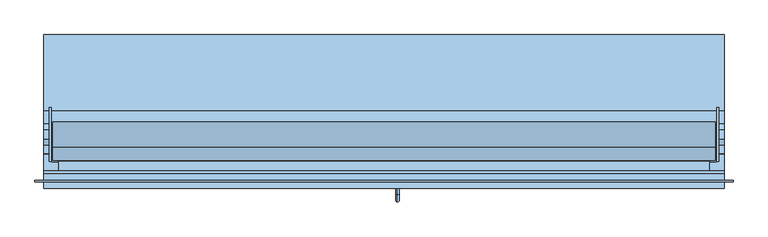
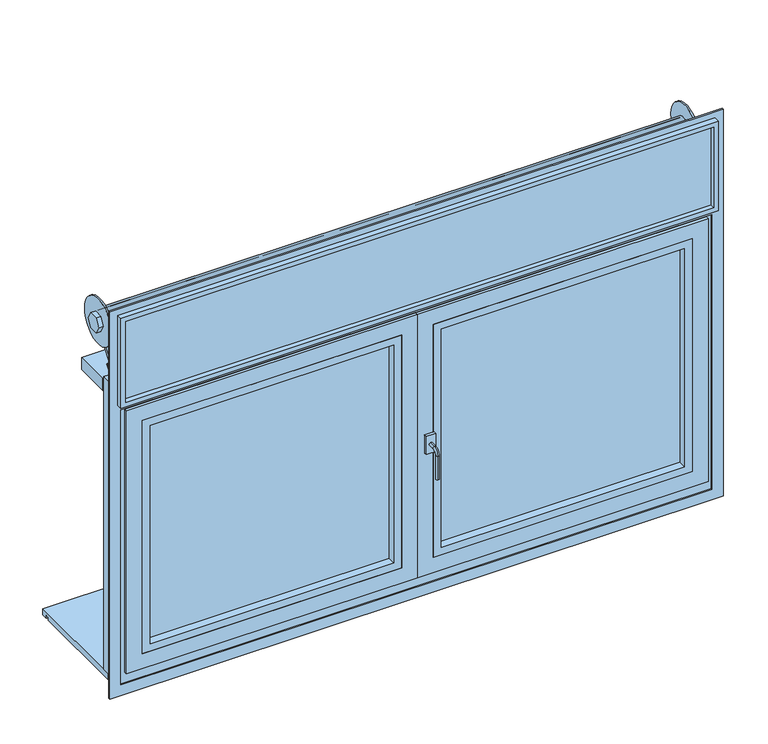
"""IFC4 building model written with IfcOpenShell, lengths in millimetres: window geometry, Ventana monoblock practicable, 2 hojas sin cajon para poner emparchado : CA-05. COCINA - DORMITORIOS NORTE."""

from ifc_helpers import new_model, si_unit, point, frame, frame_2d, origin, place, context, project, spatial, polyline, circle_curve, ellipse_curve, trimmed, segment, composite_curve, outline, extrude, faceted_brep, source, transform, mapped, element, save
from ifc_brep_helpers import plane_surface, cylinder_surface, revolved_surface, advanced_brep


def window_e1a544ef(model_context):
    return source(origin(), model_context, "Body", "SolidModel", [
        extrude(outline(polyline([(930.0, -120.0), (930.0, -135.0), (-930.0, -135.0), (-930.0, -120.0), (930.0, -120.0)])), frame((0.0, 0.0, 1865.0), z_axis=(0.0, 0.0, 1.0), x_axis=(1.0, 0.0, 0.0)), (0.0, 0.0, 1.0), 270.0),
        faceted_brep([(-945.0, -110.0, 2150.0), (-945.0, -150.0, 2150.0), (945.0, -150.0, 2150.0), (945.0, -110.0, 2150.0), (-915.0, -120.0, 2120.0), (-915.0, -110.0, 2120.0), (915.0, -110.0, 2120.0), (915.0, -120.0, 2120.0), (-930.0, -150.0, 2135.0), (-930.0, -120.0, 2135.0), (930.0, -120.0, 2135.0), (930.0, -150.0, 2135.0), (945.0, -150.0, 1850.0), (945.0, -110.0, 1850.0), (915.0, -110.0, 1880.0), (915.0, -120.0, 1880.0), (930.0, -120.0, 1865.0), (930.0, -150.0, 1865.0), (-945.0, -150.0, 1850.0), (-945.0, -110.0, 1850.0), (-915.0, -110.0, 1880.0), (-915.0, -120.0, 1880.0), (-930.0, -120.0, 1865.0), (-930.0, -150.0, 1865.0)], [[[0, 1, 2, 3]], [[4, 5, 6, 7]], [[8, 9, 10, 11]], [[3, 2, 12, 13]], [[7, 6, 14, 15]], [[11, 10, 16, 17]], [[13, 12, 18, 19]], [[15, 14, 20, 21]], [[17, 16, 22, 23]], [[19, 18, 1, 0]], [[3, 13, 19, 0], [5, 20, 14, 6]], [[21, 20, 5, 4]], [[9, 22, 16, 10], [7, 15, 21, 4]], [[23, 22, 9, 8]], [[1, 18, 12, 2], [11, 17, 23, 8]]]),
        advanced_brep(
        [(-945.0, -28.8675135, 2045.0), (-945.0, -14.4337567, 2070.0), (-945.0, 14.4337567, 2070.0), (-945.0, 28.8675135, 2045.0), (-945.0, 14.4337567, 2020.0), (-945.0, -14.4337567, 2020.0), (945.0, -28.8675135, 2045.0), (945.0, -14.4337567, 2020.0), (945.0, 14.4337567, 2020.0), (945.0, 28.8675135, 2045.0), (945.0, 14.4337567, 2070.0), (945.0, -14.4337567, 2070.0), (-930.0, -28.8675135, 2045.0), (-930.0, -14.4337567, 2070.0), (930.0, -14.4337567, 2070.0), (930.0, -28.8675135, 2045.0), (925.0, -28.8675135, 2045.0), (925.0, -14.4337567, 2070.0), (-925.0, -14.4337567, 2070.0), (-925.0, -28.8675135, 2045.0), (-930.0, 14.4337567, 2070.0), (930.0, 14.4337567, 2070.0), (925.0, 14.4337567, 2070.0), (-925.0, 14.4337567, 2070.0), (-930.0, 28.8675135, 2045.0), (930.0, 28.8675135, 2045.0), (925.0, 28.8675135, 2045.0), (-925.0, 28.8675135, 2045.0), (-930.0, 14.4337567, 2020.0), (930.0, 14.4337567, 2020.0), (925.0, 14.4337567, 2020.0), (-925.0, 14.4337567, 2020.0), (-930.0, -14.4337567, 2020.0), (930.0, -14.4337567, 2020.0), (925.0, -14.4337567, 2020.0), (-925.0, -14.4337567, 2020.0), (925.0, -75.0, 2045.0), (925.0, 75.0, 2045.0), (930.0, -75.0, 2045.0), (930.0, 75.0, 2045.0), (-930.0, -75.0, 2045.0), (-930.0, 75.0, 2045.0), (-925.0, -75.0, 2045.0), (-925.0, 75.0, 2045.0)],
        [
            (0, 1),
            (1, 2),
            (2, 3),
            (3, 4),
            (4, 5),
            (5, 0),
            (6, 7),
            (7, 8),
            (8, 9),
            (9, 10),
            (10, 11),
            (11, 6),
            (0, 12),
            (12, 13),
            (13, 1),
            (11, 14),
            (14, 15),
            (15, 6),
            (16, 17),
            (17, 18),
            (18, 19),
            (19, 16),
            (13, 20),
            (20, 2),
            (10, 21),
            (21, 14),
            (17, 22),
            (22, 23),
            (23, 18),
            (20, 24),
            (24, 3),
            (9, 25),
            (25, 21),
            (22, 26),
            (26, 27),
            (27, 23),
            (24, 28),
            (28, 4),
            (8, 29),
            (29, 25),
            (26, 30),
            (30, 31),
            (31, 27),
            (28, 32),
            (32, 5),
            (7, 33),
            (33, 29),
            (30, 34),
            (34, 35),
            (35, 31),
            (32, 12),
            (15, 33),
            (34, 16),
            (19, 35),
            (36, 37, circle_curve(frame((925.0, 0.0, 2045.0), z_axis=(-1.0, 0.0, 0.0), x_axis=(0.0, 1.0, 0.0)), 75.0)),
            (37, 36, circle_curve(frame((925.0, 0.0, 2045.0), z_axis=(-1.0, 0.0, 0.0), x_axis=(0.0, 1.0, 0.0)), 75.0)),
            (38, 39, circle_curve(frame((930.0, 0.0, 2045.0), z_axis=(1.0, 0.0, 0.0), x_axis=(0.0, 1.0, 0.0)), 75.0)),
            (39, 38, circle_curve(frame((930.0, 0.0, 2045.0), z_axis=(1.0, 0.0, 0.0), x_axis=(0.0, 1.0, 0.0)), 75.0)),
            (37, 39),
            (38, 36),
            (40, 41, circle_curve(frame((-930.0, 0.0, 2045.0), z_axis=(-1.0, 0.0, 0.0), x_axis=(0.0, 1.0, 0.0)), 75.0)),
            (41, 40, circle_curve(frame((-930.0, 0.0, 2045.0), z_axis=(-1.0, 0.0, 0.0), x_axis=(0.0, 1.0, 0.0)), 75.0)),
            (42, 43, circle_curve(frame((-925.0, 0.0, 2045.0), z_axis=(1.0, 0.0, 0.0), x_axis=(0.0, 1.0, 0.0)), 75.0)),
            (43, 42, circle_curve(frame((-925.0, 0.0, 2045.0), z_axis=(1.0, 0.0, 0.0), x_axis=(0.0, 1.0, 0.0)), 75.0)),
            (41, 43),
            (42, 40),
        ],
        [
            plane_surface(frame((-945.0, -28.8675135, 2045.0), z_axis=(-1.0, 0.0, 0.0), x_axis=(0.0, 0.4999999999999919, 0.8660254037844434))),
            plane_surface(frame((945.0, -28.8675135, 2045.0), z_axis=(1.0, 0.0, 0.0), x_axis=(0.0, -0.4999999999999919, -0.8660254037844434))),
            plane_surface(frame((-945.0, -28.8675135, 2045.0), z_axis=(0.0, -0.8660254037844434, 0.4999999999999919), x_axis=(1.0, 0.0, 0.0))),
            plane_surface(frame((-945.0, -14.4337567, 2070.0), z_axis=(0.0, 0.0, 1.0), x_axis=(1.0, 0.0, 0.0))),
            plane_surface(frame((-945.0, 14.4337567, 2070.0), z_axis=(0.0, 0.8660254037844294, 0.5000000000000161), x_axis=(1.0, 0.0, 0.0))),
            plane_surface(frame((-945.0, 28.8675135, 2045.0), z_axis=(0.0, 0.8660254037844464, -0.49999999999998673), x_axis=(1.0, 0.0, 0.0))),
            plane_surface(frame((-945.0, 14.4337567, 2020.0), z_axis=(0.0, 0.0, -1.0), x_axis=(1.0, 0.0, 0.0))),
            plane_surface(frame((-945.0, -14.4337567, 2020.0), z_axis=(0.0, -0.8660254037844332, -0.5000000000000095), x_axis=(1.0, 0.0, 0.0))),
            plane_surface(frame((925.0, 75.0, 2045.0), z_axis=(-1.0, 0.0, 0.0), x_axis=(0.0, 0.0, -1.0))),
            plane_surface(frame((930.0, 75.0, 2045.0), z_axis=(1.0, 0.0, 0.0), x_axis=(0.0, 0.0, 1.0))),
            cylinder_surface(frame((925.0, 0.0, 2045.0), z_axis=(1.0, 0.0, 0.0), x_axis=(0.0, 1.0, 0.0)), 75.0),
            plane_surface(frame((-930.0, 75.0, 2045.0), z_axis=(-1.0, 0.0, 0.0), x_axis=(0.0, 0.0, -1.0))),
            plane_surface(frame((-925.0, 75.0, 2045.0), z_axis=(1.0, 0.0, 0.0), x_axis=(0.0, 0.0, 1.0))),
            cylinder_surface(frame((-930.0, 0.0, 2045.0), z_axis=(1.0, 0.0, 0.0), x_axis=(0.0, 1.0, 0.0)), 75.0),
        ],
        [
            (0, [[1, 2, 3, 4, 5, 6]]),
            (1, [[7, 8, 9, 10, 11, 12]]),
            (2, [[-1, 13, 14, 15]]),
            (2, [[-12, 16, 17, 18]]),
            (2, [[19, 20, 21, 22]]),
            (3, [[-2, -15, 23, 24]]),
            (3, [[-11, 25, 26, -16]]),
            (3, [[27, 28, 29, -20]]),
            (4, [[-3, -24, 30, 31]]),
            (4, [[-10, 32, 33, -25]]),
            (4, [[34, 35, 36, -28]]),
            (5, [[-4, -31, 37, 38]]),
            (5, [[-9, 39, 40, -32]]),
            (5, [[41, 42, 43, -35]]),
            (6, [[-5, -38, 44, 45]]),
            (6, [[-8, 46, 47, -39]]),
            (6, [[48, 49, 50, -42]]),
            (7, [[-6, -45, 51, -13]]),
            (7, [[-7, -18, 52, -46]]),
            (7, [[53, -22, 54, -49]]),
            (8, [[55, 56], [-19, -53, -48, -41, -34, -27]]),
            (9, [[57, 58], [-17, -26, -33, -40, -47, -52]]),
            (10, [[-56, 59, -57, 60]]),
            (10, [[-55, -60, -58, -59]]),
            (11, [[61, 62], [-14, -51, -44, -37, -30, -23]]),
            (12, [[63, 64], [-21, -29, -36, -43, -50, -54]]),
            (13, [[-62, 65, -63, 66]]),
            (13, [[-61, -66, -64, -65]]),
        ],
    ),
        extrude(outline(composite_curve([segment(trimmed(circle_curve(frame_2d((0.0, 2045.0)), 29.0), [point((22.8709706, 2027.1697251))], [point((0.0, 2016.0))], True, "CARTESIAN"), True, "CONTINUOUS"), segment(polyline([(0.0, 2016.0), (0.0, 2010.0)]), True, "CONTINUOUS"), segment(trimmed(circle_curve(frame_2d((0.0, 2045.0)), 35.0), [point((0.0, 2010.0))], [point((27.6028956, 2023.4807027))], False, "CARTESIAN"), True, "CONTINUOUS"), segment(polyline([(27.6028956, 2023.4807027), (-66.0, 1903.4158643), (-66.0, 1500.0), (-72.0, 1500.0), (-72.0, 1905.4783214), (22.8709706, 2027.1697251)]), True, "CONTINUOUS")], self_intersect=False)), frame((-920.0, 0.0, 0.0), z_axis=(1.0, 0.0, 0.0), x_axis=(0.0, 1.0, 0.0)), (0.0, 0.0, 1.0), 1840.0),
        extrude(outline(polyline([(-945.0, -52.0), (-945.0, 65.0), (945.0, 65.0), (945.0, -52.0), (-945.0, -52.0)])), frame((0.0, 0.0, 1850.0), z_axis=(0.0, 0.0, 1.0), x_axis=(1.0, 0.0, 0.0)), (0.0, 0.0, 1.0), 40.0),
        extrude(outline(polyline([(905.0, -75.0), (905.0, -100.0), (-905.0, -100.0), (-905.0, -75.0), (905.0, -75.0)])), frame((0.0, 0.0, 1840.0), z_axis=(0.0, 0.0, 1.0), x_axis=(1.0, 0.0, 0.0)), (0.0, 0.0, 1.0), 10.0),
        faceted_brep([(-925.0, -77.0, 920.0), (-905.0, -77.0, 920.0), (-905.0, -100.0, 920.0), (-945.0, -100.0, 920.0), (-945.0, -56.0, 920.0), (-905.0, -56.0, 920.0), (-905.0, -61.0, 920.0), (-925.0, -61.0, 920.0), (-925.0, -77.0, 1900.0), (-905.0, -77.0, 1900.0), (-905.0, -100.0, 1900.0), (-945.0, -100.0, 1900.0), (-945.0, -56.0, 1900.0), (-925.0, -56.0, 1900.0), (-905.0, -56.0, 1900.0), (-905.0, -37.5521886, 1923.65752), (-905.0, -41.4951086, 1926.7321553), (-905.0, -61.0, 1901.7190332), (-925.0, -61.0, 1901.7190332), (-925.0, -61.0, 1900.0), (-925.0, -41.4951086, 1926.7321553), (-925.0, -37.5521886, 1923.65752)], [[[0, 1, 2, 3, 4, 5, 6, 7]], [[8, 9, 1, 0]], [[9, 10, 2, 1]], [[10, 11, 3, 2]], [[11, 12, 4, 3]], [[12, 13, 14, 5, 4]], [[6, 5, 14, 15, 16, 17]], [[7, 6, 17, 18, 19]], [[8, 0, 7, 19]], [[13, 12, 11, 10, 9, 8, 19]], [[18, 20, 21, 13, 19]], [[16, 15, 21, 20]], [[17, 16, 20, 18]], [[15, 14, 13, 21]]]),
        faceted_brep([(945.0, -56.0, 920.0), (945.0, -100.0, 920.0), (905.0, -100.0, 920.0), (905.0, -77.0, 920.0), (925.0, -77.0, 920.0), (925.0, -61.0, 920.0), (905.0, -61.0, 920.0), (905.0, -56.0, 920.0), (945.0, -56.0, 1900.0), (945.0, -100.0, 1900.0), (905.0, -100.0, 1900.0), (905.0, -77.0, 1900.0), (925.0, -77.0, 1900.0), (925.0, -61.0, 1900.0), (925.0, -61.0, 1901.7190332), (905.0, -61.0, 1901.7190332), (905.0, -41.4951086, 1926.7321553), (905.0, -37.5521886, 1923.65752), (905.0, -56.0, 1900.0), (925.0, -56.0, 1900.0), (925.0, -37.5521886, 1923.65752), (925.0, -41.4951086, 1926.7321553)], [[[0, 1, 2, 3, 4, 5, 6, 7]], [[8, 9, 1, 0]], [[9, 10, 2, 1]], [[10, 11, 3, 2]], [[11, 12, 4, 3]], [[4, 12, 13, 5]], [[6, 5, 13, 14, 15]], [[7, 6, 15, 16, 17, 18]], [[19, 8, 0, 7, 18]], [[12, 11, 10, 9, 8, 19, 13]], [[19, 20, 21, 14, 13]], [[21, 20, 17, 16]], [[14, 21, 16, 15]], [[20, 19, 18, 17]]]),
        advanced_brep(
        [(-763.0, -34.0, 1520.0), (-777.0, -34.0, 1520.0), (-760.5, -66.0, 1520.0), (-779.5, -66.0, 1520.0)],
        [
            (0, 1, circle_curve(frame((-770.0, -34.0, 1520.0), z_axis=(0.0, 1.0, 0.0), x_axis=(1.0, 0.0, 0.0)), 7.0)),
            (1, 0, circle_curve(frame((-770.0, -34.0, 1520.0), z_axis=(0.0, 1.0, 0.0), x_axis=(-1.0, 0.0, 0.0)), 7.0)),
            (2, 3, circle_curve(frame((-770.0, -66.0, 1520.0), z_axis=(0.0, -1.0, 0.0), x_axis=(-1.0, 0.0, 0.0)), 9.5)),
            (3, 2, circle_curve(frame((-770.0, -66.0, 1520.0), z_axis=(0.0, -1.0, 0.0), x_axis=(1.0, 0.0, 0.0)), 9.5)),
            (3, 1),
            (0, 2),
        ],
        [
            plane_surface(frame((-770.0, -34.0, 1520.0), z_axis=(0.0, 1.0, 0.0), x_axis=(0.0, 0.0, 1.0))),
            plane_surface(frame((-770.0, -66.0, 1520.0), z_axis=(0.0, -1.0, 0.0), x_axis=(0.0, 0.0, 1.0))),
            revolved_surface(polyline([(-763.0, -33.99999999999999, 1520.0), (-760.5, -66.0, 1520.0)]), (-770.0, 55.6, 1520.0), (0.0, -1.0, 0.0)),
            revolved_surface(polyline([(-777.0, -33.99999999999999, 1520.0), (-779.5, -66.0, 1520.0)]), (-770.0, 55.6, 1520.0), (0.0, -1.0, 0.0)),
        ],
        [
            (0, [[1, 2]]),
            (1, [[3, 4]]),
            (2, [[-4, 5, -1, 6]]),
            (3, [[-3, -6, -2, -5]]),
        ],
    ),
        advanced_brep(
        [(763.0, -34.0, 1520.0), (777.0, -34.0, 1520.0), (760.5, -66.0, 1520.0), (779.5, -66.0, 1520.0)],
        [
            (0, 1, circle_curve(frame((770.0, -34.0, 1520.0), z_axis=(0.0, 1.0, 0.0), x_axis=(-1.0, 0.0, 0.0)), 7.0)),
            (1, 0, circle_curve(frame((770.0, -34.0, 1520.0), z_axis=(0.0, 1.0, 0.0), x_axis=(1.0, 0.0, 0.0)), 7.0)),
            (2, 3, circle_curve(frame((770.0, -66.0, 1520.0), z_axis=(0.0, -1.0, 0.0), x_axis=(1.0, 0.0, 0.0)), 9.5)),
            (3, 2, circle_curve(frame((770.0, -66.0, 1520.0), z_axis=(0.0, -1.0, 0.0), x_axis=(-1.0, 0.0, 0.0)), 9.5)),
            (2, 0),
            (1, 3),
        ],
        [
            plane_surface(frame((770.0, -34.0, 1520.0), z_axis=(0.0, 1.0, 0.0), x_axis=(0.0, 0.0, -1.0))),
            plane_surface(frame((770.0, -66.0, 1520.0), z_axis=(0.0, -1.0, 0.0), x_axis=(0.0, 0.0, -1.0))),
            revolved_surface(polyline([(777.0, -33.99999999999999, 1520.0), (779.5, -66.0, 1520.0)]), (770.0, 55.6, 1520.0), (0.0, -1.0, 0.0)),
            revolved_surface(polyline([(763.0, -33.99999999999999, 1520.0), (760.5, -66.0, 1520.0)]), (770.0, 55.6, 1520.0), (0.0, -1.0, 0.0)),
        ],
        [
            (0, [[1, 2]]),
            (1, [[3, 4]]),
            (2, [[-3, 5, -2, 6]]),
            (3, [[-4, -6, -1, -5]]),
        ],
    ),
        extrude(outline(polyline([(277.5, 920.0), (277.5, 900.0), (257.5, 900.0), (257.5, 910.0), (247.5, 910.0), (247.5, 900.0), (-77.5, 900.0), (-77.5, 920.0), (277.5, 920.0)])), frame((-945.0, 0.0, 0.0), z_axis=(1.0, 0.0, 0.0), x_axis=(0.0, 1.0, 0.0)), (0.0, 0.0, 1.0), 1890.0),
        advanced_brep(
        [(37.5, -147.5, 1390.0), (37.5, -166.5, 1390.0), (37.5, -166.5, 1380.0), (37.5, -147.5, 1380.0), (37.5, -187.5, 1369.0), (37.5, -177.5, 1369.0), (37.5, -187.5, 1290.0), (37.5, -177.5, 1290.0), (52.5, -147.5, 1415.0), (22.5, -147.5, 1415.0), (22.5, -147.5, 1355.0), (52.5, -147.5, 1355.0), (52.5, -137.5, 1415.0), (52.5, -137.5, 1355.0), (22.5, -137.5, 1355.0), (22.5, -137.5, 1415.0)],
        [
            (0, 1),
            (1, 2, circle_curve(frame((37.5, -166.5, 1385.0), z_axis=(0.0, 1.0, 0.0), x_axis=(0.0, 0.0, -1.0)), 5.0)),
            (2, 3),
            (3, 0, circle_curve(frame((37.5, -147.5, 1385.0), z_axis=(0.0, -1.0, 0.0), x_axis=(0.0, 0.0, -1.0)), 5.0)),
            (0, 3, circle_curve(frame((37.5, -147.5, 1385.0), z_axis=(0.0, -1.0, 0.0), x_axis=(0.0, 0.0, -1.0)), 5.0)),
            (2, 1, circle_curve(frame((37.5, -166.5, 1385.0), z_axis=(0.0, 1.0, 0.0), x_axis=(0.0, 0.0, -1.0)), 5.0)),
            (1, 4, circle_curve(frame((37.5, -166.5, 1369.0), z_axis=(1.0, 0.0, 0.0), x_axis=(0.0, 0.0, 1.0)), 21.0)),
            (4, 5, circle_curve(frame((37.5, -182.5, 1369.0), z_axis=(0.0, 0.0, 1.0), x_axis=(0.0, 1.0, 0.0)), 5.0)),
            (5, 2, circle_curve(frame((37.5, -166.5, 1369.0), z_axis=(-1.0, 0.0, 0.0), x_axis=(0.0, 0.0, 1.0)), 11.0)),
            (5, 4, circle_curve(frame((37.5, -182.5, 1369.0), z_axis=(0.0, 0.0, 1.0), x_axis=(0.0, 1.0, 0.0)), 5.0)),
            (6, 7, circle_curve(frame((37.5, -182.5, 1290.0), z_axis=(0.0, 0.0, -1.0), x_axis=(0.0, 1.0, 0.0)), 5.0)),
            (7, 6, circle_curve(frame((37.5, -182.5, 1290.0), z_axis=(0.0, 0.0, -1.0), x_axis=(0.0, 1.0, 0.0)), 5.0)),
            (4, 6),
            (7, 5),
            (8, 9),
            (9, 10),
            (10, 11),
            (11, 8),
            (12, 13),
            (13, 14),
            (14, 15),
            (15, 12),
            (8, 12),
            (15, 9),
            (14, 10),
            (13, 11),
        ],
        [
            cylinder_surface(frame((37.5, -147.5, 1385.0), z_axis=(0.0, 1.0, 0.0), x_axis=(0.0, 0.0, -1.0)), 5.0),
            revolved_surface(trimmed(ellipse_curve(frame((37.5, -166.5, 1385.0), z_axis=(0.0, 1.0, 0.0), x_axis=(0.0, 0.0, -1.0)), 5.0, 5.0), [point((37.5, -166.5, 1390.0))], [point((37.5, -166.5, 1380.0))], True, "CARTESIAN"), (37.5, -166.5, 1369.0), (1.0, 0.0, 0.0)),
            revolved_surface(trimmed(ellipse_curve(frame((37.5, -166.5, 1385.0), z_axis=(0.0, 1.0, 0.0), x_axis=(0.0, 0.0, -1.0)), 5.0, 5.0), [point((37.5, -166.5, 1380.0))], [point((37.5, -166.5, 1390.0))], True, "CARTESIAN"), (37.5, -166.5, 1369.0), (1.0, 0.0, 0.0)),
            plane_surface(frame((37.5, -182.5, 1290.0), z_axis=(0.0, 0.0, -1.0), x_axis=(1.0, 0.0, 0.0))),
            cylinder_surface(frame((37.5, -182.5, 1369.0), z_axis=(0.0, 0.0, 1.0), x_axis=(0.0, 1.0, 0.0)), 5.0),
            plane_surface(frame((22.5, -147.5, 1415.0), z_axis=(0.0, -1.0, 0.0), x_axis=(-1.0, 0.0, 0.0))),
            plane_surface(frame((22.5, -137.5, 1415.0), z_axis=(0.0, 1.0, 0.0), x_axis=(1.0, 0.0, 0.0))),
            plane_surface(frame((52.5, -147.5, 1415.0), z_axis=(0.0, 0.0, 1.0), x_axis=(0.0, 1.0, 0.0))),
            plane_surface(frame((22.5, -147.5, 1415.0), z_axis=(-1.0, 0.0, 0.0), x_axis=(0.0, 1.0, 0.0))),
            plane_surface(frame((22.5, -147.5, 1355.0), z_axis=(0.0, 0.0, -1.0), x_axis=(0.0, 1.0, 0.0))),
            plane_surface(frame((52.5, -147.5, 1355.0), z_axis=(1.0, 0.0, 0.0), x_axis=(0.0, 1.0, 0.0))),
        ],
        [
            (0, [[1, 2, 3, 4]]),
            (0, [[-1, 5, -3, 6]]),
            (1, [[-2, 7, 8, 9]]),
            (2, [[-6, -9, 10, -7]]),
            (3, [[11, 12]]),
            (4, [[-8, 13, -12, 14]]),
            (4, [[-10, -14, -11, -13]]),
            (5, [[15, 16, 17, 18], [-4, -5]]),
            (6, [[19, 20, 21, 22]]),
            (7, [[-15, 23, -22, 24]]),
            (8, [[-16, -24, -21, 25]]),
            (9, [[-17, -25, -20, 26]]),
            (10, [[-18, -26, -19, -23]]),
        ],
    ),
        faceted_brep([(945.0, -77.5, 1850.0), (945.0, -127.5, 1850.0), (945.0, -127.5, 900.0), (945.0, -77.5, 900.0), (-945.0, -127.5, 1850.0), (-945.0, -127.5, 900.0), (910.0, -127.5, 1815.0), (910.0, -127.5, 955.0), (-910.0, -127.5, 955.0), (-910.0, -127.5, 1815.0), (-945.0, -77.5, 900.0), (-945.0, -77.5, 1850.0), (885.0, -77.5, 980.0), (885.0, -77.5, 1790.0), (-885.0, -77.5, 1790.0), (-885.0, -77.5, 980.0), (885.0, -87.5, 1790.0), (885.0, -87.5, 980.0), (-885.0, -87.5, 980.0), (910.0, -87.5, 955.0), (910.0, -87.5, 1815.0), (-910.0, -87.5, 1815.0), (-910.0, -87.5, 955.0), (-885.0, -87.5, 1790.0)], [[[0, 1, 2, 3]], [[2, 1, 4, 5], [6, 7, 8, 9]], [[3, 2, 5, 10]], [[0, 3, 10, 11], [12, 13, 14, 15]], [[16, 13, 12, 17]], [[17, 12, 15, 18]], [[19, 20, 21, 22], [16, 17, 18, 23]], [[6, 20, 19, 7]], [[7, 19, 22, 8]], [[18, 15, 14, 23]], [[8, 22, 21, 9]], [[4, 11, 10, 5]], [[1, 0, 11, 4]], [[13, 16, 23, 14]], [[20, 6, 9, 21]]]),
        faceted_brep([(-25.0, -87.5, 980.0), (-35.0, -87.5, 980.0), (-35.0, -77.5, 980.0), (35.0, -77.5, 980.0), (35.0, -87.5, 980.0), (10.0, -87.5, 980.0), (-25.0, -87.5, 1790.0), (-35.0, -87.5, 1790.0), (-35.0, -77.5, 1790.0), (35.0, -77.5, 1790.0), (35.0, -87.5, 1790.0), (10.0, -87.5, 1790.0), (10.0, -87.5, 955.0), (-25.0, -87.5, 955.0), (-62.5, -87.5, 1790.0), (-62.5, -87.5, 1815.0), (10.0, -87.5, 1815.0), (-35.0, -87.5, 1790.0), (-25.0, -127.5, 955.0), (-25.0, -127.5, 1790.0), (10.0, -127.5, 1815.0), (-62.5, -127.5, 1815.0), (-62.5, -127.5, 1790.0), (10.0, -127.5, 955.0)], [[[0, 1, 2, 3, 4, 5]], [[1, 0, 6, 7]], [[2, 1, 7, 8]], [[3, 2, 8, 9]], [[4, 3, 9, 10]], [[5, 4, 10, 11]], [[5, 12, 13, 0]], [[14, 15, 16, 11, 6, 17]], [[18, 19, 6, 0, 13]], [[20, 21, 22, 19, 18, 23]], [[23, 18, 13, 12]], [[20, 23, 12, 5, 11, 16]], [[11, 10, 9, 8, 7, 6]], [[21, 20, 16, 15]], [[22, 21, 15, 14]], [[22, 14, 17, 6, 19]]]),
        extrude(outline(polyline([(-60.0, -97.5), (-60.0, -111.5), (-860.0, -111.5), (-860.0, -97.5), (-60.0, -97.5)])), frame((0.0, 0.0, 1005.0), z_axis=(0.0, 0.0, 1.0), x_axis=(1.0, 0.0, 0.0)), (0.0, 0.0, 1.0), 760.0),
        extrude(outline(polyline([(860.0, -97.5), (860.0, -111.5), (60.0, -111.5), (60.0, -97.5), (860.0, -97.5)])), frame((0.0, 0.0, 1005.0), z_axis=(0.0, 0.0, 1.0), x_axis=(1.0, 0.0, 0.0)), (0.0, 0.0, 1.0), 760.0),
        faceted_brep([(-75.0, -97.5, 1750.0), (-75.0, -87.5, 1750.0), (-75.0, -87.5, 1020.0), (-75.0, -97.5, 1020.0), (-25.0, -87.5, 1800.0), (-25.0, -87.5, 970.0), (-895.0, -87.5, 970.0), (-895.0, -87.5, 1800.0), (-845.0, -87.5, 1750.0), (-845.0, -87.5, 1020.0), (-845.0, -97.5, 1020.0), (-870.0, -97.5, 1775.0), (-870.0, -97.5, 995.0), (-50.0, -97.5, 995.0), (-50.0, -97.5, 1775.0), (-845.0, -97.5, 1750.0), (-50.0, -137.5, 1775.0), (-50.0, -137.5, 995.0), (-870.0, -137.5, 995.0), (-920.0, -137.5, 1825.0), (-920.0, -137.5, 945.0), (0.0, -137.5, 945.0), (0.0, -137.5, 1825.0), (-870.0, -137.5, 1775.0), (0.0, -127.5, 1825.0), (0.0, -127.5, 945.0), (-920.0, -127.5, 945.0), (-920.0, -127.5, 1825.0), (-895.0, -127.5, 1800.0), (-895.0, -127.5, 970.0), (-25.0, -127.5, 970.0), (-25.0, -127.5, 1800.0)], [[[0, 1, 2, 3]], [[4, 5, 6, 7], [8, 9, 2, 1]], [[3, 2, 9, 10]], [[11, 12, 13, 14], [0, 3, 10, 15]], [[16, 14, 13, 17]], [[17, 13, 12, 18]], [[19, 20, 21, 22], [16, 17, 18, 23]], [[24, 22, 21, 25]], [[25, 21, 20, 26]], [[24, 25, 26, 27], [28, 29, 30, 31]], [[4, 31, 30, 5]], [[5, 30, 29, 6]], [[10, 9, 8, 15]], [[18, 12, 11, 23]], [[26, 20, 19, 27]], [[6, 29, 28, 7]], [[15, 8, 1, 0]], [[23, 11, 14, 16]], [[27, 19, 22, 24]], [[7, 28, 31, 4]]]),
        extrude(outline(polyline([(1775.0, -870.0), (995.0, -870.0), (995.0, -50.0), (1775.0, -50.0), (1775.0, -870.0)]), holes=[polyline([(1750.0, -75.0), (1020.0, -75.0), (1020.0, -845.0), (1750.0, -845.0), (1750.0, -75.0)])]), frame((0.0, -137.5, 0.0), z_axis=(0.0, 1.0, 0.0), x_axis=(0.0, 0.0, 1.0)), (0.0, 0.0, 1.0), 26.0),
        extrude(outline(polyline([(1775.0, 50.0), (995.0, 50.0), (995.0, 870.0), (1775.0, 870.0), (1775.0, 50.0)]), holes=[polyline([(1750.0, 845.0), (1020.0, 845.0), (1020.0, 75.0), (1750.0, 75.0), (1750.0, 845.0)])]), frame((0.0, -137.5, 0.0), z_axis=(0.0, 1.0, 0.0), x_axis=(0.0, 0.0, 1.0)), (0.0, 0.0, 1.0), 26.0),
        faceted_brep([(25.0, -127.5, 1800.0), (25.0, -87.5, 1800.0), (25.0, -87.5, 970.0), (25.0, -127.5, 970.0), (895.0, -87.5, 1800.0), (895.0, -87.5, 970.0), (75.0, -87.5, 1750.0), (75.0, -87.5, 1020.0), (845.0, -87.5, 1020.0), (845.0, -87.5, 1750.0), (895.0, -127.5, 970.0), (920.0, -127.5, 1825.0), (920.0, -127.5, 945.0), (0.0, -127.5, 945.0), (0.0, -127.5, 1825.0), (895.0, -127.5, 1800.0), (0.0, -137.5, 1825.0), (0.0, -137.5, 945.0), (920.0, -137.5, 945.0), (920.0, -137.5, 1825.0), (870.0, -137.5, 1775.0), (870.0, -137.5, 995.0), (50.0, -137.5, 995.0), (50.0, -137.5, 1775.0), (75.0, -97.5, 1750.0), (75.0, -97.5, 1020.0), (50.0, -97.5, 1775.0), (50.0, -97.5, 995.0), (870.0, -97.5, 995.0), (870.0, -97.5, 1775.0), (845.0, -97.5, 1750.0), (845.0, -97.5, 1020.0)], [[[0, 1, 2, 3]], [[4, 5, 2, 1], [6, 7, 8, 9]], [[3, 2, 5, 10]], [[11, 12, 13, 14], [0, 3, 10, 15]], [[16, 14, 13, 17]], [[17, 13, 12, 18]], [[16, 17, 18, 19], [20, 21, 22, 23]], [[6, 24, 25, 7]], [[26, 27, 28, 29], [30, 31, 25, 24]], [[7, 25, 31, 8]], [[10, 5, 4, 15]], [[18, 12, 11, 19]], [[8, 31, 30, 9]], [[28, 21, 20, 29]], [[27, 22, 21, 28]], [[26, 23, 22, 27]], [[15, 4, 1, 0]], [[19, 11, 14, 16]], [[9, 30, 24, 6]], [[29, 20, 23, 26]]]),
        extrude(outline(polyline([(2170.0, 970.0), (2170.0, -970.0), (875.0, -970.0), (875.0, 970.0), (2170.0, 970.0)]), holes=[polyline([(910.0, -935.0), (1830.0, -935.0), (1830.0, 935.0), (910.0, 935.0), (910.0, -935.0)]), polyline([(2135.0, -935.0), (2135.0, 935.0), (1865.0, 935.0), (1865.0, -935.0), (2135.0, -935.0)])]), frame((0.0, -132.5, 0.0), z_axis=(0.0, 1.0, 0.0), x_axis=(0.0, 0.0, 1.0)), (0.0, 0.0, 1.0), 5.0),
    ])


if __name__ == "__main__":
    model = new_model("IFC4")
    model_context = context("Model", 3, world=origin())
    ifc_project = project(units=[si_unit("LENGTHUNIT", "METRE", prefix="MILLI")], contexts=[model_context])
    site = spatial("IfcSite", under=ifc_project)
    building = spatial("IfcBuilding", under=site)
    placement = place(None, origin())
    window_shape = window_e1a544ef(model_context)
    element("IfcWindow", 1, ObjectType="Ventana monoblock practicable, 2 hojas sin cajon para poner emparchado : CA-05. COCINA - DORMITORIOS NORTE", at=placement, inside=building, context=model_context, shape_type="MappedRepresentation", body=[
        mapped(window_shape, transform((0.0, 0.0, 0.0), x_axis=(1.0, 0.0, 0.0), y_axis=(0.0, 1.0, 0.0), z_axis=(0.0, 0.0, 1.0))),
    ])
    save(model, "model.ifc")
